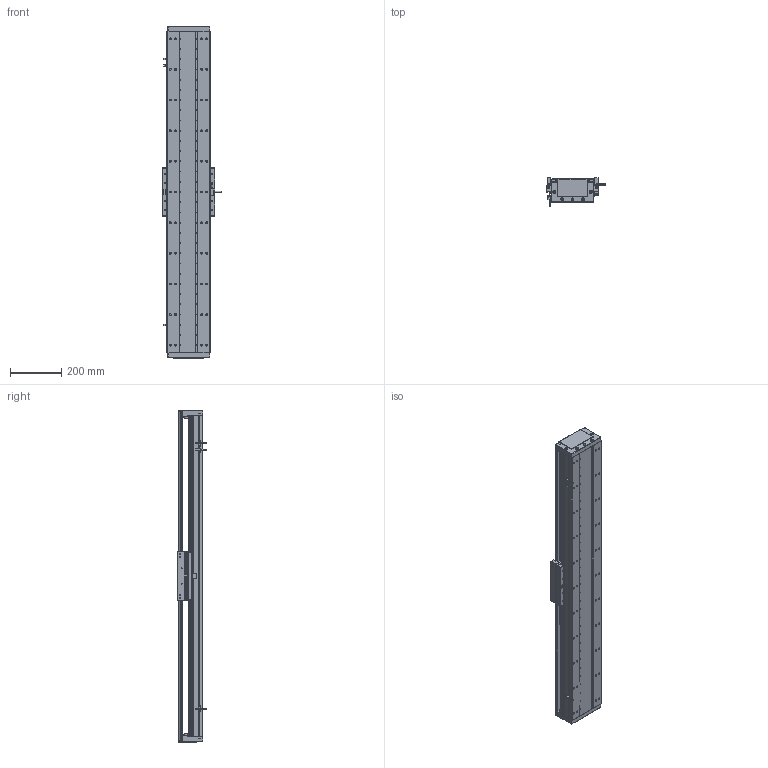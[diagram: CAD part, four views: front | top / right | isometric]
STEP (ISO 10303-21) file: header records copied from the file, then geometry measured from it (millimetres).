
FILE_DESCRIPTION (( 'STEP AP203' ), '1' );
FILE_NAME ('DA-C165-C2-T1020-C010-0.2 直线电机.STEP', '2023-05-11T07:33:52', ( '微软用户' ), ( '微软中国' ), 'SwSTEP 2.0', 'SolidWorks 2019', '' );
FILE_SCHEMA (( 'CONFIG_CONTROL_DESIGN' ));
Length unit declared in the file: millimetre
Products named in the file (15): 葩璃 DA95-GT-T-00^IU-CU165-L 菁釱絳寢_T; 葩璃 PM-T45^DA-C165-C2-T-C010-0.2-N 眻盄萇儂; 复件 DA165-T-002-00 盖板^DA-C165-C2-T-C010-0.2-N 直线电机_0840-002-00; 复件 CKM02-W075-C1C2-TP-3.0 一体电机-C2^DA-C165-C2-T-C010-0.2-N 直线电机; DA-C165-C2-T1020-C010-0.2 眻盄萇儂; 珨极趙賑雄怢啣wf-C2; 复件 DA165-DG-H-N-00 端盖^DA-C165-C2-T-C010-0.2-N 直线电机; 复件 DMA-010-0.2 读数头^DA-C165-C2-T-C010-0.2-N 直线电机; 复件 XD-U-02L 磁栅尺^DA-C165-C2-T-C010-0.2-N 直线电机_T; 复件 六角薄螺母 M3^DA-C165-C2-T-C010-0.2-N 直线电机_GB_FASTENER_NUT_STNAB M3-C; IU-CU165-L-00 菁釱_L1260; 复件 DA165-GYP-00 光电感应片^DA-C165-C2-T-C010-0.2-N 直线电机; 复件 DA95-HXJ-00 缓冲橡胶^DA-C165-C2-T-C010-0.2-N 直线电机; 葩璃 CKM01-W075-TRL^DA-C165-C2-T-C010-0.2-N 眻盄萇儂; IU-CU165-L 菁釱絳寢
Assembly tree (28 placements, depth 3):
  DA-C165-C2-T1020-C010-0.2 眻盄萇儂
    IU-CU165-L 菁釱絳寢
      IU-CU165-L-00 菁釱_L1260
      葩璃 DA95-GT-T-00^IU-CU165-L 菁釱絳寢_T  x4
    复件 DA165-DG-H-N-00 端盖^DA-C165-C2-T-C010-0.2-N 直线电机  x2
    复件 DA95-HXJ-00 缓冲橡胶^DA-C165-C2-T-C010-0.2-N 直线电机  x4
    复件 DA165-T-002-00 盖板^DA-C165-C2-T-C010-0.2-N 直线电机_0840-002-00
    复件 XD-U-02L 磁栅尺^DA-C165-C2-T-C010-0.2-N 直线电机_T
    葩璃 PM-T45^DA-C165-C2-T-C010-0.2-N 眻盄萇儂  x3
    葩璃 CKM01-W075-TRL^DA-C165-C2-T-C010-0.2-N 眻盄萇儂
    复件 DA165-GYP-00 光电感应片^DA-C165-C2-T-C010-0.2-N 直线电机
    复件 DMA-010-0.2 读数头^DA-C165-C2-T-C010-0.2-N 直线电机
    复件 CKM02-W075-C1C2-TP-3.0 一体电机-C2^DA-C165-C2-T-C010-0.2-N 直线电机
    复件 六角薄螺母 M3^DA-C165-C2-T-C010-0.2-N 直线电机_GB_FASTENER_NUT_STNAB M3-C  x6
    珨极趙賑雄怢啣wf-C2
Bounding box: 233 x 111.45 x 1300 mm (x, y, z)
Volume: 9073696.5 mm3; surface area: 2520607.4 mm2
Topology: 66 solids, 66 shells, 3204 faces, 8916 edges, 5617 vertices
Faces by surface type: cylinder 1671, plane 1069, cone 406, torus 54, sphere 4
Entity records: 99097 total; most frequent: CARTESIAN_POINT 23964, DIRECTION 15412, ORIENTED_EDGE 15306, EDGE_CURVE 7653, AXIS2_PLACEMENT_3D 5801, VERTEX_POINT 4953, VECTOR 3810, LINE 3810
